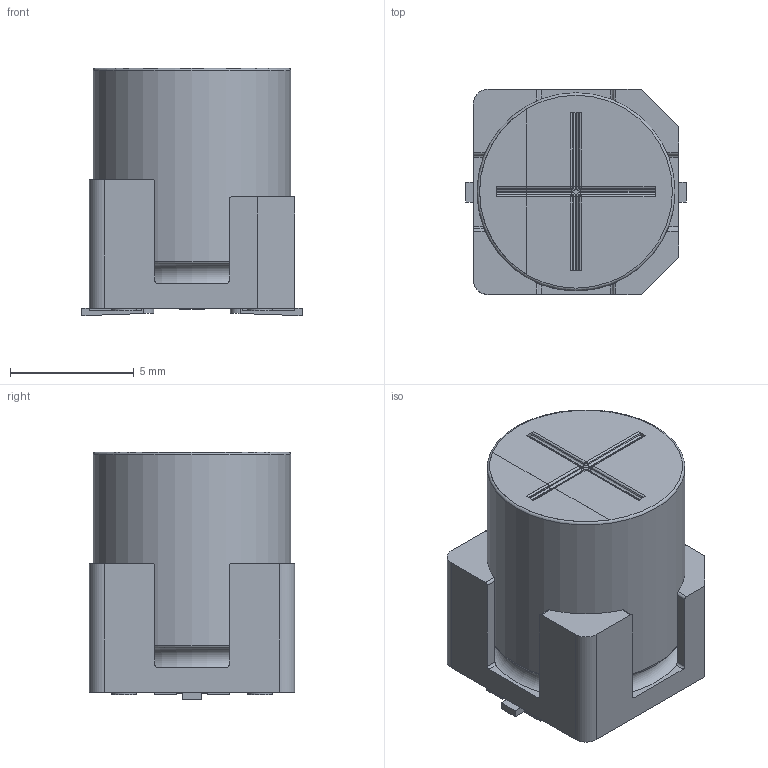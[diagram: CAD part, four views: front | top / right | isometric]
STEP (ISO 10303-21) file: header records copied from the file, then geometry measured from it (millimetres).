
FILE_DESCRIPTION(/* description */ (''),/* implementation_level */ '2;1');
FILE_NAME(/* name */ '8x10_Chip_耐振品.stp',/* time_stamp */ '2018-03-29T19:06:12+09:00',/* author */ (''),/* organization */ (''),/* preprocessor_version */ 'ST-DEVELOPER v16',/* originating_system */ 'SIEMENS PLM Software NX 11.0',/* authorisation */ '');
FILE_SCHEMA (('AUTOMOTIVE_DESIGN { 1 0 10303 214 3 1 1 1 }'));
Length unit declared in the file: millimetre
Products named in the file (1): 8x10_Chip_耐振品_1
Bounding box: 8.9 x 8.3 x 10 mm (x, y, z)
Volume: 548.1 mm3; surface area: 690.3 mm2
Topology: 9 solids, 9 shells, 161 faces, 393 edges, 252 vertices
Faces by surface type: plane 93, cylinder 57, sphere 4, bspline 4, torus 3
Full cylindrical faces by diameter (mm): 1 x4, 8 x2
Entity records: 4992 total; most frequent: CARTESIAN_POINT 1050, DIRECTION 790, ORIENTED_EDGE 756, EDGE_CURVE 378, AXIS2_PLACEMENT_3D 270, VERTEX_POINT 250, LINE 250, VECTOR 250
